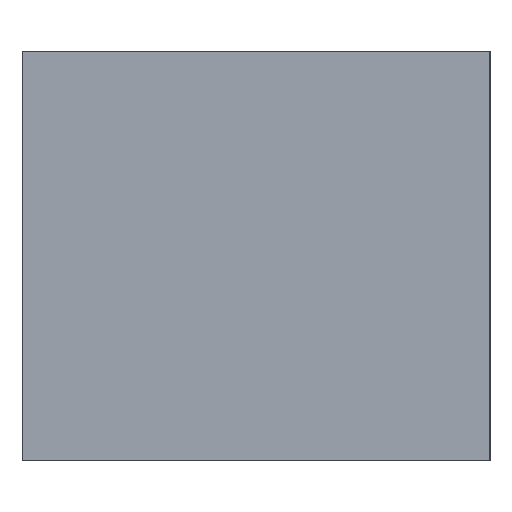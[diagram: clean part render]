
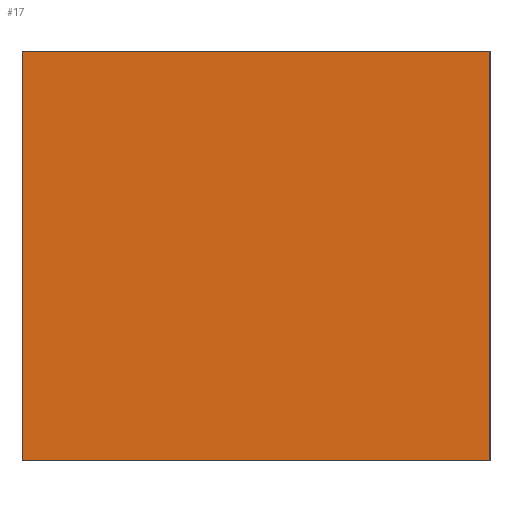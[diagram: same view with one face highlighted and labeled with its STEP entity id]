
A CAD part, left-side view. The second image highlights one B-rep face of the part: STEP entity #17.
In plain terms, the highlighted planar face has unit normal (-1, 0, 0).
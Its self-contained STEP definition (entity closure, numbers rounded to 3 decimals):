
#17 = ADVANCED_FACE('',(#18),#32,.F.);
#18 = FACE_BOUND('',#19,.F.);
#19 = EDGE_LOOP('',(#20,#55,#83,#111));
#20 = ORIENTED_EDGE('',*,*,#21,.F.);
#21 = EDGE_CURVE('',#22,#24,#26,.T.);
#22 = VERTEX_POINT('',#23);
#23 = CARTESIAN_POINT('',(-100.,-8.,-79.));
#24 = VERTEX_POINT('',#25);
#25 = CARTESIAN_POINT('',(-100.,-8.,-65.));
#26 = SURFACE_CURVE('',#27,(#31,#43),.PCURVE_S1.);
#27 = LINE('',#28,#29);
#28 = CARTESIAN_POINT('',(-100.,-8.,-79.));
#29 = VECTOR('',#30,1.);
#30 = DIRECTION('',(0.,0.,1.));
#31 = PCURVE('',#32,#37);
#32 = PLANE('',#33);
#33 = AXIS2_PLACEMENT_3D('',#34,#35,#36);
#34 = CARTESIAN_POINT('',(-100.,-8.,-79.));
#35 = DIRECTION('',(1.,0.,0.));
#36 = DIRECTION('',(0.,0.,1.));
#37 = DEFINITIONAL_REPRESENTATION('',(#38),#42);
#38 = LINE('',#39,#40);
#39 = CARTESIAN_POINT('',(0.,0.));
#40 = VECTOR('',#41,1.);
#41 = DIRECTION('',(1.,0.));
#42 = ( GEOMETRIC_REPRESENTATION_CONTEXT(2) 
PARAMETRIC_REPRESENTATION_CONTEXT() REPRESENTATION_CONTEXT('2D SPACE',''
  ) );
#43 = PCURVE('',#44,#49);
#44 = PLANE('',#45);
#45 = AXIS2_PLACEMENT_3D('',#46,#47,#48);
#46 = CARTESIAN_POINT('',(-100.,-8.,-79.));
#47 = DIRECTION('',(0.,1.,0.));
#48 = DIRECTION('',(0.,0.,1.));
#49 = DEFINITIONAL_REPRESENTATION('',(#50),#54);
#50 = LINE('',#51,#52);
#51 = CARTESIAN_POINT('',(0.,0.));
#52 = VECTOR('',#53,1.);
#53 = DIRECTION('',(1.,0.));
#54 = ( GEOMETRIC_REPRESENTATION_CONTEXT(2) 
PARAMETRIC_REPRESENTATION_CONTEXT() REPRESENTATION_CONTEXT('2D SPACE',''
  ) );
#55 = ORIENTED_EDGE('',*,*,#56,.T.);
#56 = EDGE_CURVE('',#22,#57,#59,.T.);
#57 = VERTEX_POINT('',#58);
#58 = CARTESIAN_POINT('',(-100.,8.,-79.));
#59 = SURFACE_CURVE('',#60,(#64,#71),.PCURVE_S1.);
#60 = LINE('',#61,#62);
#61 = CARTESIAN_POINT('',(-100.,-8.,-79.));
#62 = VECTOR('',#63,1.);
#63 = DIRECTION('',(0.,1.,0.));
#64 = PCURVE('',#32,#65);
#65 = DEFINITIONAL_REPRESENTATION('',(#66),#70);
#66 = LINE('',#67,#68);
#67 = CARTESIAN_POINT('',(0.,0.));
#68 = VECTOR('',#69,1.);
#69 = DIRECTION('',(0.,-1.));
#70 = ( GEOMETRIC_REPRESENTATION_CONTEXT(2) 
PARAMETRIC_REPRESENTATION_CONTEXT() REPRESENTATION_CONTEXT('2D SPACE',''
  ) );
#71 = PCURVE('',#72,#77);
#72 = PLANE('',#73);
#73 = AXIS2_PLACEMENT_3D('',#74,#75,#76);
#74 = CARTESIAN_POINT('',(-100.,-8.,-79.));
#75 = DIRECTION('',(0.,0.,1.));
#76 = DIRECTION('',(1.,0.,0.));
#77 = DEFINITIONAL_REPRESENTATION('',(#78),#82);
#78 = LINE('',#79,#80);
#79 = CARTESIAN_POINT('',(0.,0.));
#80 = VECTOR('',#81,1.);
#81 = DIRECTION('',(0.,1.));
#82 = ( GEOMETRIC_REPRESENTATION_CONTEXT(2) 
PARAMETRIC_REPRESENTATION_CONTEXT() REPRESENTATION_CONTEXT('2D SPACE',''
  ) );
#83 = ORIENTED_EDGE('',*,*,#84,.T.);
#84 = EDGE_CURVE('',#57,#85,#87,.T.);
#85 = VERTEX_POINT('',#86);
#86 = CARTESIAN_POINT('',(-100.,8.,-65.));
#87 = SURFACE_CURVE('',#88,(#92,#99),.PCURVE_S1.);
#88 = LINE('',#89,#90);
#89 = CARTESIAN_POINT('',(-100.,8.,-79.));
#90 = VECTOR('',#91,1.);
#91 = DIRECTION('',(0.,0.,1.));
#92 = PCURVE('',#32,#93);
#93 = DEFINITIONAL_REPRESENTATION('',(#94),#98);
#94 = LINE('',#95,#96);
#95 = CARTESIAN_POINT('',(0.,-16.));
#96 = VECTOR('',#97,1.);
#97 = DIRECTION('',(1.,0.));
#98 = ( GEOMETRIC_REPRESENTATION_CONTEXT(2) 
PARAMETRIC_REPRESENTATION_CONTEXT() REPRESENTATION_CONTEXT('2D SPACE',''
  ) );
#99 = PCURVE('',#100,#105);
#100 = PLANE('',#101);
#101 = AXIS2_PLACEMENT_3D('',#102,#103,#104);
#102 = CARTESIAN_POINT('',(-100.,8.,-79.));
#103 = DIRECTION('',(0.,1.,0.));
#104 = DIRECTION('',(0.,0.,1.));
#105 = DEFINITIONAL_REPRESENTATION('',(#106),#110);
#106 = LINE('',#107,#108);
#107 = CARTESIAN_POINT('',(0.,0.));
#108 = VECTOR('',#109,1.);
#109 = DIRECTION('',(1.,0.));
#110 = ( GEOMETRIC_REPRESENTATION_CONTEXT(2) 
PARAMETRIC_REPRESENTATION_CONTEXT() REPRESENTATION_CONTEXT('2D SPACE',''
  ) );
#111 = ORIENTED_EDGE('',*,*,#112,.F.);
#112 = EDGE_CURVE('',#24,#85,#113,.T.);
#113 = SURFACE_CURVE('',#114,(#118,#125),.PCURVE_S1.);
#114 = LINE('',#115,#116);
#115 = CARTESIAN_POINT('',(-100.,-8.,-65.));
#116 = VECTOR('',#117,1.);
#117 = DIRECTION('',(0.,1.,0.));
#118 = PCURVE('',#32,#119);
#119 = DEFINITIONAL_REPRESENTATION('',(#120),#124);
#120 = LINE('',#121,#122);
#121 = CARTESIAN_POINT('',(14.,0.));
#122 = VECTOR('',#123,1.);
#123 = DIRECTION('',(0.,-1.));
#124 = ( GEOMETRIC_REPRESENTATION_CONTEXT(2) 
PARAMETRIC_REPRESENTATION_CONTEXT() REPRESENTATION_CONTEXT('2D SPACE',''
  ) );
#125 = PCURVE('',#126,#131);
#126 = PLANE('',#127);
#127 = AXIS2_PLACEMENT_3D('',#128,#129,#130);
#128 = CARTESIAN_POINT('',(-100.,-8.,-65.));
#129 = DIRECTION('',(0.,0.,1.));
#130 = DIRECTION('',(1.,0.,0.));
#131 = DEFINITIONAL_REPRESENTATION('',(#132),#136);
#132 = LINE('',#133,#134);
#133 = CARTESIAN_POINT('',(0.,0.));
#134 = VECTOR('',#135,1.);
#135 = DIRECTION('',(0.,1.));
#136 = ( GEOMETRIC_REPRESENTATION_CONTEXT(2) 
PARAMETRIC_REPRESENTATION_CONTEXT() REPRESENTATION_CONTEXT('2D SPACE',''
  ) );
